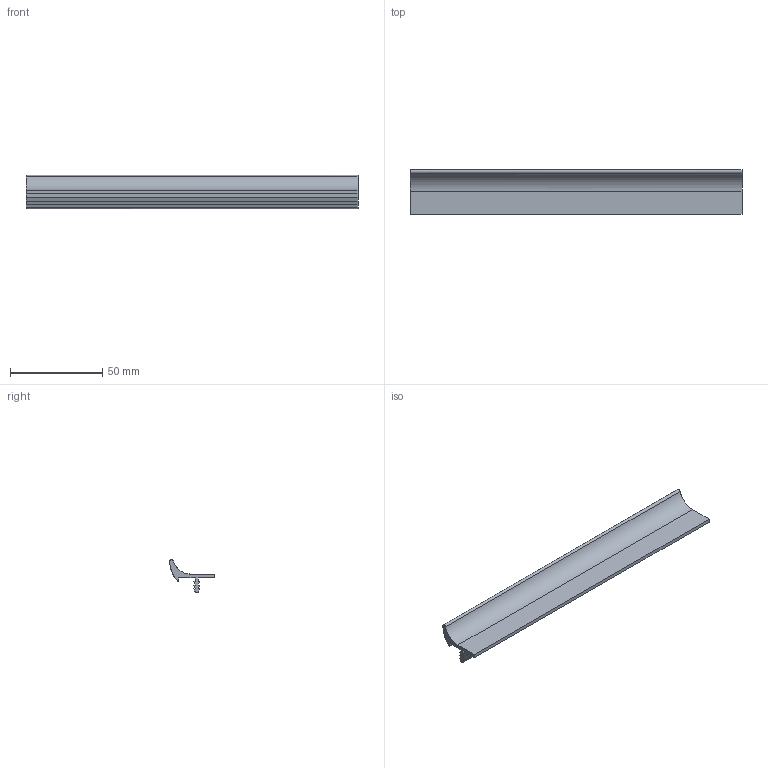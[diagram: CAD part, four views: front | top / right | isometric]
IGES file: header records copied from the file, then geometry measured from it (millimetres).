
Start section: C
Global section: file name: 8190.igs; native system: By Siemens PLM Incorporated; preprocessor: XPlus GENERIC/IGES 16.0.42; author: Author; organization: Title; date: 20230827.120522; units: millimetre
Bounding box: 180 x 24.2 x 17.99 mm (x, y, z)
Surface area: 15509.9 mm2 (no closed solid volume)
Topology: 0 solids, 0 shells, 27 faces, 150 edges, 150 vertices
Faces by surface type: bspline 27
